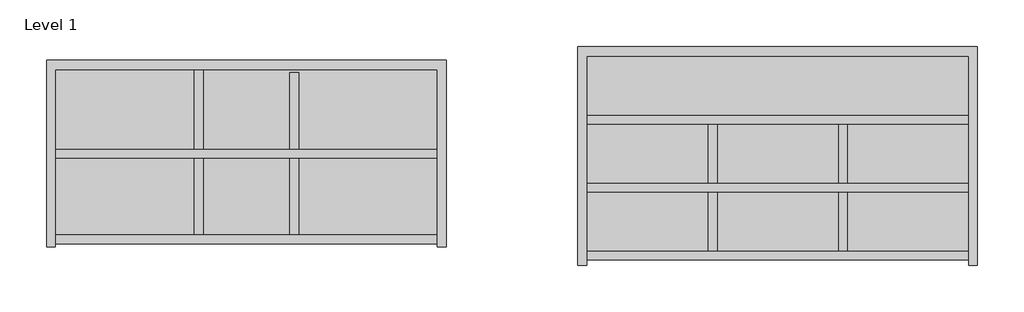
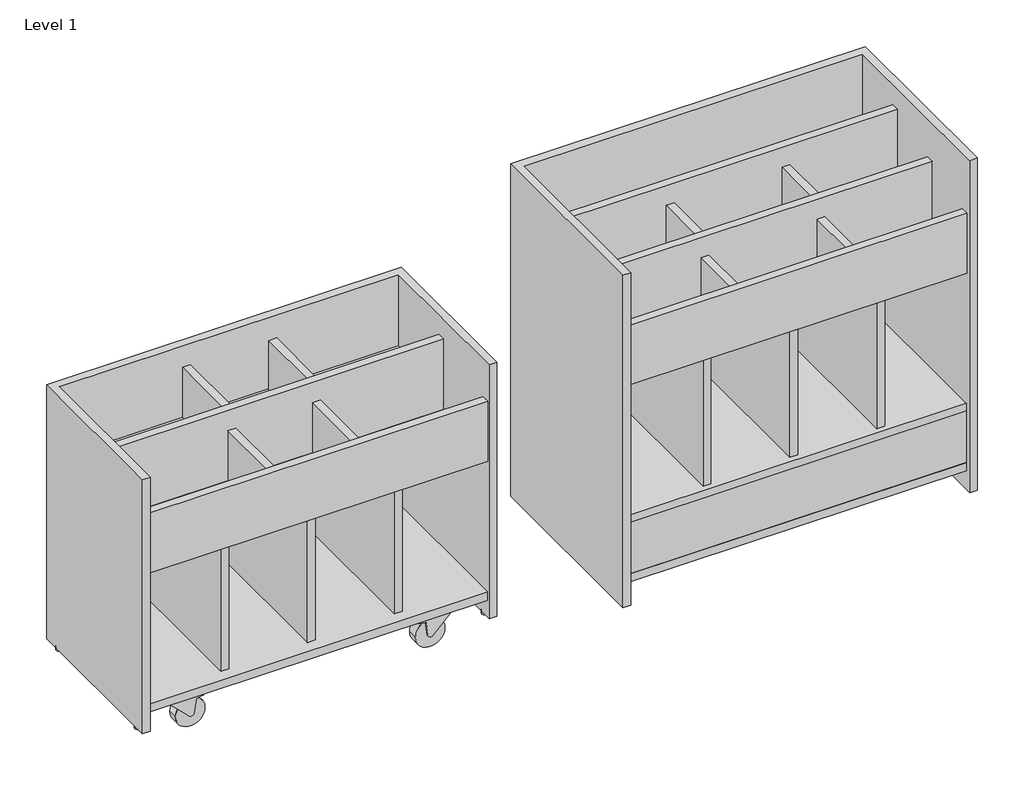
# One storey: 2 furniture elements.
"""IFC4 building model written with IfcOpenShell, lengths in millimetres."""

from ifc_helpers import new_model, si_unit, origin, place, context, project, spatial, transform, mapped, element, save
from components import furniture_dce0b0f9, furniture_0cd5fa17

model = new_model("IFC4")

# Units and contexts
model_context = context("Model", 3, world=origin())
ifc_project = project(units=[si_unit("LENGTHUNIT", "METRE", prefix="MILLI")], contexts=[model_context])

# Site, building, storey
site = spatial("IfcSite", under=ifc_project)
building = spatial("IfcBuilding", under=site)
storey = spatial("IfcBuildingStorey", under=building, Name="Level 1", Elevation=0.0)

# Furniture
placement = place(None, origin())
furniture_shape = furniture_dce0b0f9(model_context)
element("IfcFurniture", 1, ObjectType="BK Library - Sandviken - Bookbrowser : BK Library - Sandviken - Bookbrowser", at=placement, inside=storey, context=model_context, shape_type="MappedRepresentation", body=[
    mapped(furniture_shape, transform((-3740.8075665, 2197.9079464, 5.7025841), x_axis=(1.0, 0.0, 0.0), y_axis=(0.0, 1.0, 0.0), z_axis=(0.0, 0.0, 1.0))),
])
furniture_2_shape = furniture_0cd5fa17(model_context)
element("IfcFurniture", 2, ObjectType="BK Library - Sandviken - Bookbrowser Large : BK Library - Sandviken - Bookbrowser", at=placement, inside=storey, context=model_context, shape_type="MappedRepresentation", body=[
    mapped(furniture_2_shape, transform((-2600.8075665, 2197.9079464, 5.7025841), x_axis=(1.0, 0.0, 0.0), y_axis=(0.0, 1.0, 0.0), z_axis=(0.0, 0.0, 1.0))),
])

save(model, "model.ifc")
